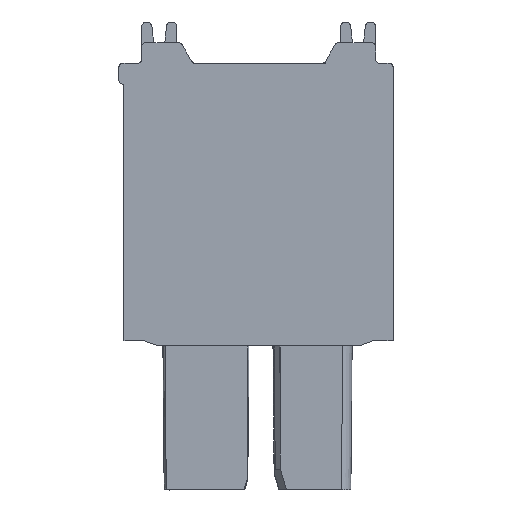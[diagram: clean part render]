
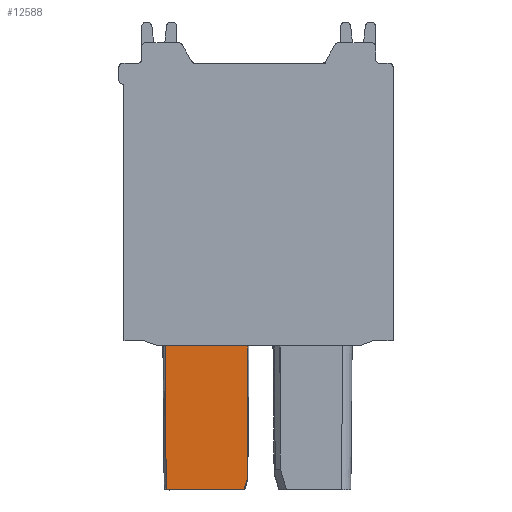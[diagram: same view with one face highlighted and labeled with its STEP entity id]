
A CAD part, left-side view. The second image highlights one B-rep face of the part: STEP entity #12588.
In plain terms, the highlighted planar face has unit normal (-1, 0, -0.009).
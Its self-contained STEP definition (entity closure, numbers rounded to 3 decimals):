
#3441=DIRECTION('',(-0.008,-0.291,0.957));
#3442=VECTOR('',#3441,0.585);
#3443=CARTESIAN_POINT('',(3.912,7.207,-22.6));
#3444=LINE('',#3443,#3442);
#3460=DIRECTION('',(0.,-1.,0.));
#3461=VECTOR('',#3460,3.975);
#3462=CARTESIAN_POINT('',(3.85,10.986,-15.501));
#3463=LINE('',#3462,#3461);
#3468=CARTESIAN_POINT('',(3.907,7.037,-22.041));
#3469=CARTESIAN_POINT('',(3.901,7.034,-21.31));
#3470=CARTESIAN_POINT('',(3.888,7.028,-19.852));
#3471=CARTESIAN_POINT('',(3.869,7.019,-17.672));
#3472=CARTESIAN_POINT('',(3.856,7.013,-16.224));
#3473=CARTESIAN_POINT('',(3.85,7.011,-15.501));
#3501=DIRECTION('',(0.,-1.,0.));
#3502=VECTOR('',#3501,3.759);
#3503=CARTESIAN_POINT('',(3.912,10.966,-22.6));
#3504=LINE('',#3503,#3502);
#3553=CARTESIAN_POINT('',(3.85,10.986,-15.501));
#3554=CARTESIAN_POINT('',(3.857,10.984,-16.288));
#3555=CARTESIAN_POINT('',(3.871,10.98,-17.864));
#3556=CARTESIAN_POINT('',(3.891,10.973,-20.23));
#3557=CARTESIAN_POINT('',(3.905,10.969,-21.81));
#3558=CARTESIAN_POINT('',(3.912,10.966,-22.6));
#7404=CARTESIAN_POINT('',(3.912,7.207,-22.6));
#7405=CARTESIAN_POINT('',(3.907,7.037,-22.041));
#7406=VERTEX_POINT('',#7404);
#7407=VERTEX_POINT('',#7405);
#7409=CARTESIAN_POINT('',(3.912,10.966,-22.6));
#7410=VERTEX_POINT('',#7409);
#8017=CARTESIAN_POINT('',(3.85,10.986,-15.501));
#8018=CARTESIAN_POINT('',(3.85,7.011,-15.501));
#8019=VERTEX_POINT('',#8017);
#8020=VERTEX_POINT('',#8018);
#12573=CARTESIAN_POINT('',(3.85,2.336,
-15.501));
#12574=DIRECTION('',(-1.,0.,-0.009));
#12575=DIRECTION('',(0.009,0.,-1.));
#12576=AXIS2_PLACEMENT_3D('',#12573,#12574,#12575);
#12577=PLANE('',#12576);
#12578=ORIENTED_EDGE('',*,*,#10509,.T.);
#12580=ORIENTED_EDGE('',*,*,#12579,.F.);
#12581=ORIENTED_EDGE('',*,*,#12561,.F.);
#12583=ORIENTED_EDGE('',*,*,#12582,.F.);
#12585=ORIENTED_EDGE('',*,*,#12584,.F.);
#12586=EDGE_LOOP('',(#12578,#12580,#12581,#12583,#12585));
#12587=FACE_OUTER_BOUND('',#12586,.F.);
#12588=ADVANCED_FACE('',(#12587),#12577,.T.);
#3474=B_SPLINE_CURVE_WITH_KNOTS('',3,(#3468,#3469,#3470,#3471,#3472,#3473),
.UNSPECIFIED.,.F.,.F.,(4,1,1,4),(0.,0.333,0.667,1.),
.UNSPECIFIED.);
#3559=B_SPLINE_CURVE_WITH_KNOTS('',3,(#3553,#3554,#3555,#3556,#3557,#3558),
.UNSPECIFIED.,.F.,.F.,(4,1,1,4),(0.,0.333,0.667,1.),
.UNSPECIFIED.);
#10509=EDGE_CURVE('',#8019,#8020,#3463,.T.);
#12561=EDGE_CURVE('',#7406,#7407,#3444,.T.);
#12579=EDGE_CURVE('',#7407,#8020,#3474,.T.);
#12582=EDGE_CURVE('',#7410,#7406,#3504,.T.);
#12584=EDGE_CURVE('',#8019,#7410,#3559,.T.);
